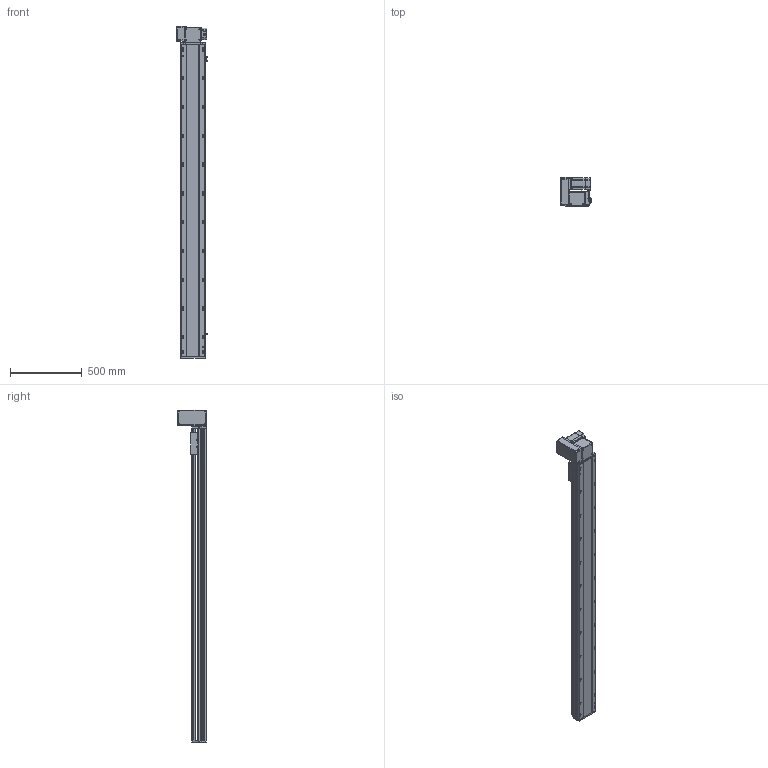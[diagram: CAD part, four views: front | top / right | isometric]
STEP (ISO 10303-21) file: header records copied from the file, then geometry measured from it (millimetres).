
FILE_DESCRIPTION (( 'STEP AP214' ), '1' );
FILE_NAME ('RTB17S-XX-1900-LW-M75-C4.STEP', '2025-12-12T01:09:49', ( '' ), ( '' ), 'SwSTEP 2.0', 'SolidWorks 2018', '' );
FILE_SCHEMA (( 'AUTOMOTIVE_DESIGN' ));
Length unit declared in the file: millimetre
Products named in the file (15): RTB22S-GY-018P^RTB17S-LW-々湍釱蚾饜-750W_RTB17S-XX-XX-LW-M75-C4; RTB22S-GY-008-M75--萇儂啣^RTB17S-LW-々湍釱蚾饜-750W_RTB17S-XX-XX-LW-M75-C4; RTB22S-GY-005P^RTB17S-LW-々湍釱蚾饜-750W_RTB17S-XX-XX-LW-M75-C4; RTB17S-L-007奻裔^RTB17S-XX-XX-LW-M75-C4; 750W萇儂^RTB17S-XX-XX-LW-M75-C4; RTB17S-L-014-T20-P75--々湍釱^RTB17S-LW-々湍釱蚾饜-750W_RTB17S-XX-XX-LW-M75-C4; RTB17S-L-004-賑釱^RTB17S-賑釱_RTB17S-XX-XX-LW-M75-C4; RTH13-BL-012覜茼え俋离^RTB17S-賑釱_RTB17S-XX-XX-LW-M75-C4; RTB17S-賑釱^RTB17S-XX-XX-LW-M75-C4; RTB22S-GY-017P^RTB17S-LW-々湍釱蚾饜-750W_RTB17S-XX-XX-LW-M75-C4; EE672^RTB17S-XX-XX-LW-M75-C4; RTB17-R-011菁釱^RTB17S-XX-XX-LW-M75-C4; RTB17S-XX-1900-LW-M75-C4; RTB17S-LW-々湍釱蚾饜-750W^RTB17S-XX-XX-LW-M75-C4; RTB17S-L-001-耜醱啣^RTB17S-XX-XX-LW-M75-C4
Assembly tree (17 placements, depth 3):
  RTB17S-XX-1900-LW-M75-C4
    RTB17-R-011菁釱^RTB17S-XX-XX-LW-M75-C4
    EE672^RTB17S-XX-XX-LW-M75-C4  x3
    RTB17S-L-001-耜醱啣^RTB17S-XX-XX-LW-M75-C4
    RTB17S-賑釱^RTB17S-XX-XX-LW-M75-C4
      RTB17S-L-004-賑釱^RTB17S-賑釱_RTB17S-XX-XX-LW-M75-C4
      RTH13-BL-012覜茼え俋离^RTB17S-賑釱_RTB17S-XX-XX-LW-M75-C4
    RTB17S-L-007奻裔^RTB17S-XX-XX-LW-M75-C4
    750W萇儂^RTB17S-XX-XX-LW-M75-C4
    RTB17S-LW-々湍釱蚾饜-750W^RTB17S-XX-XX-LW-M75-C4
      RTB17S-L-014-T20-P75--々湍釱^RTB17S-LW-々湍釱蚾饜-750W_RTB17S-XX-XX-LW-M75-C4
      RTB22S-GY-005P^RTB17S-LW-々湍釱蚾饜-750W_RTB17S-XX-XX-LW-M75-C4
      RTB22S-GY-017P^RTB17S-LW-々湍釱蚾饜-750W_RTB17S-XX-XX-LW-M75-C4  x2
      RTB22S-GY-008-M75--萇儂啣^RTB17S-LW-々湍釱蚾饜-750W_RTB17S-XX-XX-LW-M75-C4
      RTB22S-GY-018P^RTB17S-LW-々湍釱蚾饜-750W_RTB17S-XX-XX-LW-M75-C4
Bounding box: 210.4 x 201.5 x 2307.5 mm (x, y, z)
Volume: 17824560.9 mm3; surface area: 3177314.7 mm2
Topology: 17 solids, 17 shells, 2169 faces, 6052 edges, 3914 vertices
Faces by surface type: plane 980, cylinder 773, bspline 294, cone 110, sphere 8, torus 4
Entity records: 61942 total; most frequent: CARTESIAN_POINT 18316, ORIENTED_EDGE 8948, DIRECTION 8312, EDGE_CURVE 4474, AXIS2_PLACEMENT_3D 2934, VERTEX_POINT 2918, LINE 2444, VECTOR 2444
